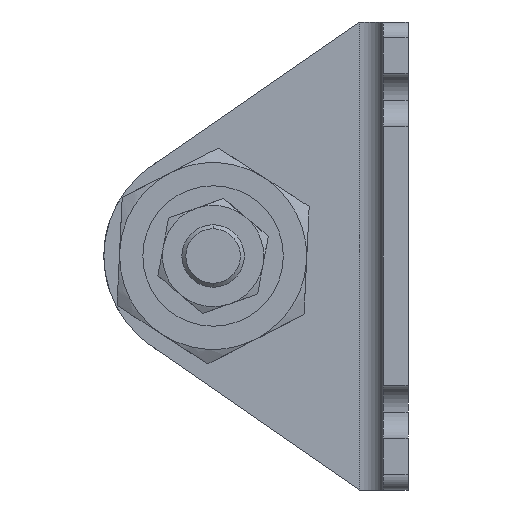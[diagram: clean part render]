
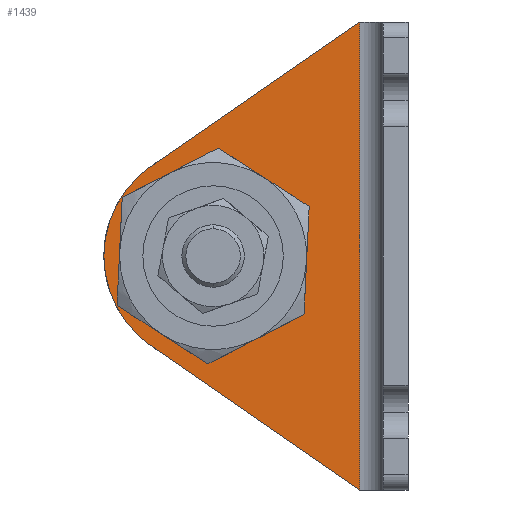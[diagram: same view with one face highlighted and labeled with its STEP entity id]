
A CAD part, left-side view. The second image highlights one B-rep face of the part: STEP entity #1439.
In plain terms, the highlighted planar face has unit normal (-1, 0, 0) as drawn and (1, 0, 0) by its records, which use the part's own axes.
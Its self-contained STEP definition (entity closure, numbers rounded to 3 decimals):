
#100 = EDGE_CURVE ( 'NONE', #1725, #1301, #2315, .T. ) ;
#136 = ORIENTED_EDGE ( 'NONE', *, *, #1581, .F. ) ;
#146 = DIRECTION ( 'NONE',  ( 0., 0.823, 0.568 ) ) ;
#153 = DIRECTION ( 'NONE',  ( 1., 0., 0. ) ) ;
#239 = LINE ( 'NONE', #2255, #2862 ) ;
#312 = CARTESIAN_POINT ( 'NONE',  ( 3.2, 34.5, -30. ) ) ;
#334 = CARTESIAN_POINT ( 'NONE',  ( 3.2, 32.956, -18.481 ) ) ;
#366 = AXIS2_PLACEMENT_3D ( 'NONE', #1695, #3796, #1967 ) ;
#369 = CARTESIAN_POINT ( 'NONE',  ( 3.2, 25., -30. ) ) ;
#675 = DIRECTION ( 'NONE',  ( 1., 0., 0. ) ) ;
#692 = VERTEX_POINT ( 'NONE', #1229 ) ;
#733 = EDGE_LOOP ( 'NONE', ( #1383, #2090 ) ) ;
#842 = EDGE_CURVE ( 'NONE', #2561, #3406, #3351, .T. ) ;
#881 = EDGE_CURVE ( 'NONE', #3015, #692, #3862, .T. ) ;
#998 = VECTOR ( 'NONE', #2508, 1000. ) ;
#1012 = ORIENTED_EDGE ( 'NONE', *, *, #3499, .T. ) ;
#1041 = DIRECTION ( 'NONE',  ( 1., 0., 0. ) ) ;
#1078 = CIRCLE ( 'NONE', #1304, 9.5 ) ;
#1204 = PLANE ( 'NONE',  #3100 ) ;
#1227 = DIRECTION ( 'NONE',  ( 0., 1., 0. ) ) ;
#1229 = CARTESIAN_POINT ( 'NONE',  ( 3.2, 6.2, -60. ) ) ;
#1238 = ORIENTED_EDGE ( 'NONE', *, *, #881, .T. ) ;
#1301 = VERTEX_POINT ( 'NONE', #334 ) ;
#1304 = AXIS2_PLACEMENT_3D ( 'NONE', #1947, #153, #1227 ) ;
#1313 = EDGE_CURVE ( 'NONE', #3406, #2561, #1078, .T. ) ;
#1346 = CARTESIAN_POINT ( 'NONE',  ( 3.2, 6.2, 0. ) ) ;
#1383 = ORIENTED_EDGE ( 'NONE', *, *, #1313, .F. ) ;
#1398 = VERTEX_POINT ( 'NONE', #1533 ) ;
#1439 = ADVANCED_FACE ( 'NONE', ( #3834, #3465 ), #1204, .T. ) ;
#1484 = DIRECTION ( 'NONE',  ( 0., 1., 0. ) ) ;
#1533 = CARTESIAN_POINT ( 'NONE',  ( 3.2, 32.956, -41.519 ) ) ;
#1578 = CARTESIAN_POINT ( 'NONE',  ( 3.2, 15.5, -30. ) ) ;
#1581 = EDGE_CURVE ( 'NONE', #3015, #1301, #3757, .T. ) ;
#1591 = CIRCLE ( 'NONE', #2339, 14. ) ;
#1695 = CARTESIAN_POINT ( 'NONE',  ( 3.2, 25., -30. ) ) ;
#1725 = VERTEX_POINT ( 'NONE', #2774 ) ;
#1800 = EDGE_LOOP ( 'NONE', ( #2431, #1012, #2640, #136, #1238 ) ) ;
#1863 = DIRECTION ( 'NONE',  ( 0., 1., 0. ) ) ;
#1947 = CARTESIAN_POINT ( 'NONE',  ( 3.2, 25., -30. ) ) ;
#1967 = DIRECTION ( 'NONE',  ( 0., 1., 0. ) ) ;
#2090 = ORIENTED_EDGE ( 'NONE', *, *, #842, .F. ) ;
#2255 = CARTESIAN_POINT ( 'NONE',  ( 3.2, 4.169, -61.403 ) ) ;
#2315 = CIRCLE ( 'NONE', #366, 14. ) ;
#2324 = VECTOR ( 'NONE', #3171, 1000. ) ;
#2339 = AXIS2_PLACEMENT_3D ( 'NONE', #369, #675, #1863 ) ;
#2431 = ORIENTED_EDGE ( 'NONE', *, *, #2702, .T. ) ;
#2437 = AXIS2_PLACEMENT_3D ( 'NONE', #2840, #1041, #2808 ) ;
#2497 = CARTESIAN_POINT ( 'NONE',  ( 3.2, 32.226, -17.976 ) ) ;
#2508 = DIRECTION ( 'NONE',  ( 0., 0.823, -0.568 ) ) ;
#2561 = VERTEX_POINT ( 'NONE', #1578 ) ;
#2640 = ORIENTED_EDGE ( 'NONE', *, *, #100, .T. ) ;
#2702 = EDGE_CURVE ( 'NONE', #692, #1398, #239, .T. ) ;
#2774 = CARTESIAN_POINT ( 'NONE',  ( 3.2, 39., -30. ) ) ;
#2808 = DIRECTION ( 'NONE',  ( 0., 1., 0. ) ) ;
#2840 = CARTESIAN_POINT ( 'NONE',  ( 3.2, 25., -30. ) ) ;
#2862 = VECTOR ( 'NONE', #146, 1000. ) ;
#3015 = VERTEX_POINT ( 'NONE', #1346 ) ;
#3100 = AXIS2_PLACEMENT_3D ( 'NONE', #3288, #3593, #1484 ) ;
#3171 = DIRECTION ( 'NONE',  ( 0., 0., -1. ) ) ;
#3288 = CARTESIAN_POINT ( 'NONE',  ( 3.2, 3.2, -60. ) ) ;
#3351 = CIRCLE ( 'NONE', #2437, 9.5 ) ;
#3406 = VERTEX_POINT ( 'NONE', #312 ) ;
#3454 = CARTESIAN_POINT ( 'NONE',  ( 3.2, 6.2, -60. ) ) ;
#3465 = FACE_OUTER_BOUND ( 'NONE', #1800, .T. ) ;
#3499 = EDGE_CURVE ( 'NONE', #1398, #1725, #1591, .T. ) ;
#3593 = DIRECTION ( 'NONE',  ( 1., 0., 0. ) ) ;
#3757 = LINE ( 'NONE', #2497, #998 ) ;
#3796 = DIRECTION ( 'NONE',  ( 1., 0., 0. ) ) ;
#3834 = FACE_BOUND ( 'NONE', #733, .T. ) ;
#3862 = LINE ( 'NONE', #3454, #2324 ) ;
